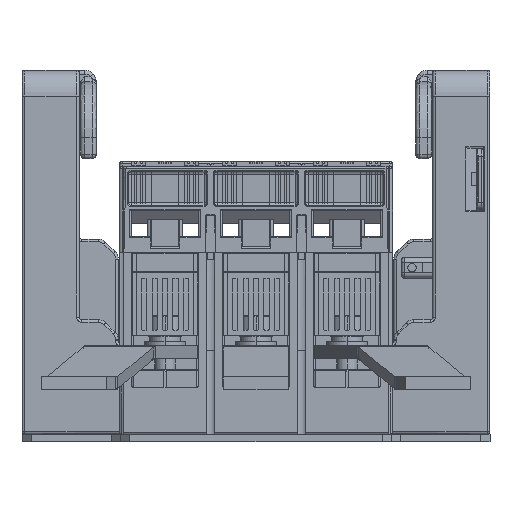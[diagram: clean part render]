
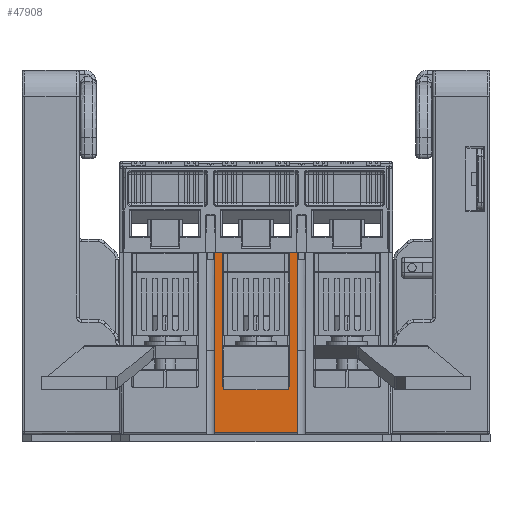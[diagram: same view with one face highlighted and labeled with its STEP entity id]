
A CAD part, front view. The second image highlights one B-rep face of the part: STEP entity #47908.
In plain terms, the highlighted planar face has unit normal (0, -1, 0).
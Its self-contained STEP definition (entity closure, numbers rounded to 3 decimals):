
#16270 = PLANE ( 'NONE',  #18171 ) ;
#16275 = FACE_OUTER_BOUND ( 'NONE', #149539, .T. ) ;
#16312 = CARTESIAN_POINT ( 'NONE',  ( -10.087, -158.339, -0.001 ) ) ;
#16314 = DIRECTION ( 'NONE',  ( 0., 1., 0. ) ) ;
#16317 = DIRECTION ( 'NONE',  ( -1., 0., 0. ) ) ;
#18171 = AXIS2_PLACEMENT_3D ( 'NONE', #16312, #16314, #16317 ) ;
#47908 = ADVANCED_FACE ( 'NONE', ( #16275 ), #16270, .F. ) ;
#82772 = CARTESIAN_POINT ( 'NONE',  ( -10.087, -158.339, -0.001 ) ) ;
#83412 = CARTESIAN_POINT ( 'NONE',  ( -36.087, -158.339, -51.001 ) ) ;
#83862 = CARTESIAN_POINT ( 'NONE',  ( -7.087, -158.339, -0.001 ) ) ;
#84478 = VECTOR ( 'NONE', #191395, 1000. ) ;
#84609 = CARTESIAN_POINT ( 'NONE',  ( -7.087, -158.339, -69.501 ) ) ;
#84728 = CARTESIAN_POINT ( 'NONE',  ( -39.087, -158.339, -0.001 ) ) ;
#84799 = VECTOR ( 'NONE', #254137, 1000. ) ;
#84989 = VECTOR ( 'NONE', #254333, 1000. ) ;
#85066 = VECTOR ( 'NONE', #254450, 1000. ) ;
#85132 = CARTESIAN_POINT ( 'NONE',  ( -36.087, -158.339, -0.001 ) ) ;
#85177 = VECTOR ( 'NONE', #254604, 1000. ) ;
#85213 = VECTOR ( 'NONE', #254657, 1000. ) ;
#85224 = VECTOR ( 'NONE', #254642, 1000. ) ;
#85507 = CARTESIAN_POINT ( 'NONE',  ( -11.087, -158.339, -52.001 ) ) ;
#113908 = EDGE_CURVE ( 'NONE', #162203, #165825, #191391, .T. ) ;
#114233 = EDGE_CURVE ( 'NONE', #165825, #166123, #254135, .T. ) ;
#114449 = EDGE_CURVE ( 'NONE', #166123, #164459, #254320, .T. ) ;
#114638 = EDGE_CURVE ( 'NONE', #165715, #164908, #254434, .T. ) ;
#115060 = EDGE_CURVE ( 'NONE', #165715, #162203, #254570, .T. ) ;
#115134 = EDGE_CURVE ( 'NONE', #163745, #168679, #254629, .T. ) ;
#115203 = EDGE_CURVE ( 'NONE', #164908, #163745, #254654, .T. ) ;
#118918 = ORIENTED_EDGE ( 'NONE', *, *, #115203, .T. ) ;
#118921 = ORIENTED_EDGE ( 'NONE', *, *, #115134, .T. ) ;
#118924 = ORIENTED_EDGE ( 'NONE', *, *, #259675, .F. ) ;
#118927 = ORIENTED_EDGE ( 'NONE', *, *, #228053, .F. ) ;
#118930 = ORIENTED_EDGE ( 'NONE', *, *, #228066, .F. ) ;
#118932 = ORIENTED_EDGE ( 'NONE', *, *, #114449, .F. ) ;
#118933 = ORIENTED_EDGE ( 'NONE', *, *, #114233, .F. ) ;
#118935 = ORIENTED_EDGE ( 'NONE', *, *, #113908, .F. ) ;
#118937 = ORIENTED_EDGE ( 'NONE', *, *, #115060, .F. ) ;
#118938 = ORIENTED_EDGE ( 'NONE', *, *, #114638, .T. ) ;
#149539 = EDGE_LOOP ( 'NONE', ( #118918, #118921, #118924, #118927, #118930, #118932, #118933, #118935, #118937, #118938 ) ) ;
#162203 = VERTEX_POINT ( 'NONE', #198523 ) ;
#163745 = VERTEX_POINT ( 'NONE', #82772 ) ;
#164459 = VERTEX_POINT ( 'NONE', #83412 ) ;
#164908 = VERTEX_POINT ( 'NONE', #83862 ) ;
#165715 = VERTEX_POINT ( 'NONE', #84609 ) ;
#165825 = VERTEX_POINT ( 'NONE', #84728 ) ;
#166123 = VERTEX_POINT ( 'NONE', #85132 ) ;
#166679 = VERTEX_POINT ( 'NONE', #85507 ) ;
#168679 = VERTEX_POINT ( 'NONE', #251132 ) ;
#168787 = VERTEX_POINT ( 'NONE', #251194 ) ;
#191384 = CARTESIAN_POINT ( 'NONE',  ( -39.087, -158.339, -0.001 ) ) ;
#191391 = LINE ( 'NONE', #191384, #84478 ) ;
#191395 = DIRECTION ( 'NONE',  ( 0., 0., 1. ) ) ;
#198523 = CARTESIAN_POINT ( 'NONE',  ( -39.087, -158.339, -69.501 ) ) ;
#228053 = EDGE_CURVE ( 'NONE', #168787, #166679, #230003, .T. ) ;
#228066 = EDGE_CURVE ( 'NONE', #164459, #168787, #272804, .T. ) ;
#230003 = LINE ( 'NONE', #230004, #272757 ) ;
#230004 = CARTESIAN_POINT ( 'NONE',  ( -10.087, -158.339, -52.001 ) ) ;
#230005 = DIRECTION ( 'NONE',  ( 1., 0., 0. ) ) ;
#230043 = CARTESIAN_POINT ( 'NONE',  ( -35.087, -158.339, -51.001 ) ) ;
#230044 = DIRECTION ( 'NONE',  ( 0., -1., 0. ) ) ;
#230045 = DIRECTION ( 'NONE',  ( -1., 0., 0. ) ) ;
#251132 = CARTESIAN_POINT ( 'NONE',  ( -10.087, -158.339, -51.001 ) ) ;
#251194 = CARTESIAN_POINT ( 'NONE',  ( -35.087, -158.339, -52.001 ) ) ;
#254130 = CARTESIAN_POINT ( 'NONE',  ( -10.087, -158.339, -0.001 ) ) ;
#254135 = LINE ( 'NONE', #254130, #84799 ) ;
#254137 = DIRECTION ( 'NONE',  ( 1., 0., 0. ) ) ;
#254320 = LINE ( 'NONE', #254332, #84989 ) ;
#254332 = CARTESIAN_POINT ( 'NONE',  ( -36.087, -158.339, -0.001 ) ) ;
#254333 = DIRECTION ( 'NONE',  ( 0., 0., -1. ) ) ;
#254434 = LINE ( 'NONE', #254449, #85066 ) ;
#254449 = CARTESIAN_POINT ( 'NONE',  ( -7.087, -158.339, -0.001 ) ) ;
#254450 = DIRECTION ( 'NONE',  ( 0., 0., 1. ) ) ;
#254570 = LINE ( 'NONE', #254587, #85177 ) ;
#254587 = CARTESIAN_POINT ( 'NONE',  ( -10.087, -158.339, -69.501 ) ) ;
#254604 = DIRECTION ( 'NONE',  ( -1., 0., 0. ) ) ;
#254629 = LINE ( 'NONE', #254640, #85224 ) ;
#254640 = CARTESIAN_POINT ( 'NONE',  ( -10.087, -158.339, -0.001 ) ) ;
#254642 = DIRECTION ( 'NONE',  ( 0., 0., -1. ) ) ;
#254654 = LINE ( 'NONE', #254656, #85213 ) ;
#254656 = CARTESIAN_POINT ( 'NONE',  ( -75.587, -158.339, -0.001 ) ) ;
#254657 = DIRECTION ( 'NONE',  ( -1., 0., 0. ) ) ;
#259675 = EDGE_CURVE ( 'NONE', #166679, #168679, #263175, .T. ) ;
#260067 = CARTESIAN_POINT ( 'NONE',  ( -11.087, -158.339, -51.001 ) ) ;
#260069 = DIRECTION ( 'NONE',  ( 0., -1., 0. ) ) ;
#260070 = DIRECTION ( 'NONE',  ( -1., 0., 0. ) ) ;
#263175 = CIRCLE ( 'NONE', #263180, 1. ) ;
#263180 = AXIS2_PLACEMENT_3D ( 'NONE', #260067, #260069, #260070 ) ;
#272757 = VECTOR ( 'NONE', #230005, 1000. ) ;
#272804 = CIRCLE ( 'NONE', #272810, 1. ) ;
#272810 = AXIS2_PLACEMENT_3D ( 'NONE', #230043, #230044, #230045 ) ;
